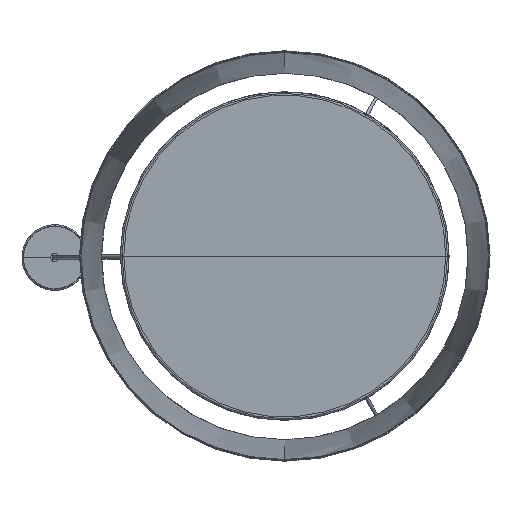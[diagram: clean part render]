
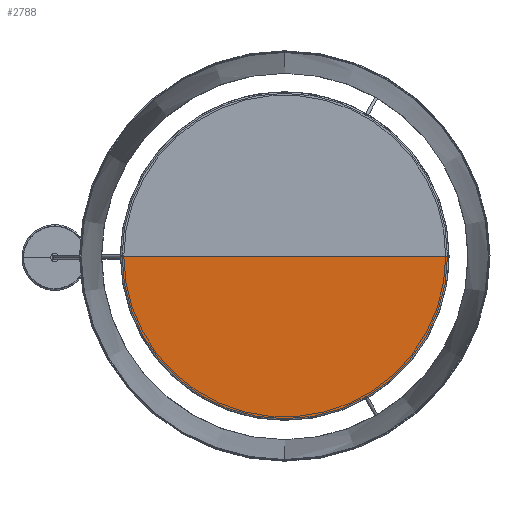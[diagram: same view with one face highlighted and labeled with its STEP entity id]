
A CAD part, top view. The second image highlights one B-rep face of the part: STEP entity #2788.
In plain terms, the highlighted planar face has unit normal (0, 0, 1) as drawn and (0, 0, -1) by its records, which use the part's own axes.
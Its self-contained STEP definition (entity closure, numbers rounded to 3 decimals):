
#300=PLANE('',#3119);
#471=FACE_OUTER_BOUND('',#658,.T.);
#658=EDGE_LOOP('',(#2466,#2467));
#807=CIRCLE('',#3114,198.182);
#951=LINE('',#7932,#1096);
#1096=VECTOR('',#3868,304.8);
#1319=VERTEX_POINT('',#7797);
#1320=VERTEX_POINT('',#7798);
#1706=EDGE_CURVE('',#1320,#1319,#807,.T.);
#1709=EDGE_CURVE('',#1319,#1320,#951,.T.);
#2466=ORIENTED_EDGE('',*,*,#1709,.T.);
#2467=ORIENTED_EDGE('',*,*,#1706,.T.);
#2788=ADVANCED_FACE('',(#471),#300,.T.);
#3114=AXIS2_PLACEMENT_3D('',#7926,#3857,#3858);
#3119=AXIS2_PLACEMENT_3D('',#7933,#3869,#3870);
#3857=DIRECTION('center_axis',(0.,0.,-1.));
#3858=DIRECTION('ref_axis',(-1.,0.,0.));
#3868=DIRECTION('',(-1.,0.,0.));
#3869=DIRECTION('center_axis',(0.,0.,-1.));
#3870=DIRECTION('ref_axis',(-1.,0.,0.));
#7797=CARTESIAN_POINT('',(198.182,0.,27.771));
#7798=CARTESIAN_POINT('',(-198.182,0.,27.771));
#7926=CARTESIAN_POINT('Origin',(0.,0.,27.771));
#7932=CARTESIAN_POINT('',(198.182,0.,27.771));
#7933=CARTESIAN_POINT('Origin',(0.,0.,27.771));
